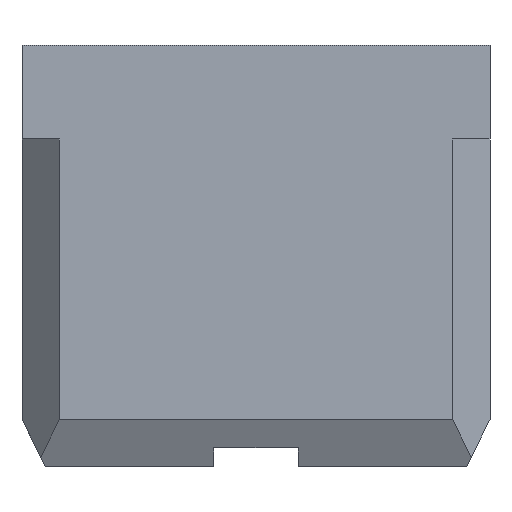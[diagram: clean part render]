
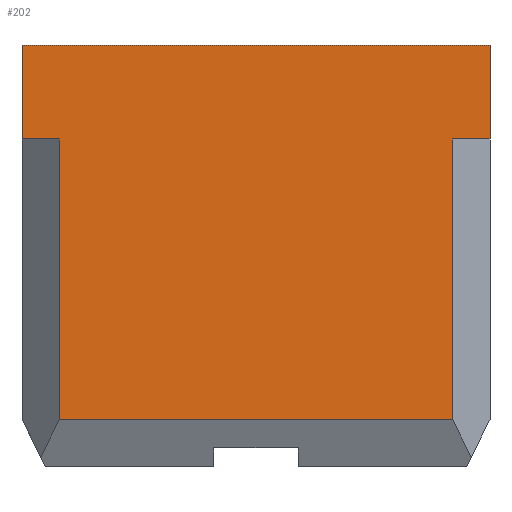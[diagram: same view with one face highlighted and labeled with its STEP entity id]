
A CAD part, left-side view. The second image highlights one B-rep face of the part: STEP entity #202.
In plain terms, the highlighted planar face has unit normal (-1, 0, 0).
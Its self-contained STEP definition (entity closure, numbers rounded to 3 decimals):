
#21 = ORIENTED_EDGE ( 'NONE', *, *, #1562, .T. ) ;
#32 = PLANE ( 'NONE',  #2537 ) ;
#176 = VECTOR ( 'NONE', #2682, 1000. ) ;
#189 = CARTESIAN_POINT ( 'NONE',  ( -1.25, 2.5, 4.65 ) ) ;
#202 = ADVANCED_FACE ( 'NONE', ( #1349 ), #32, .F. ) ;
#203 = DIRECTION ( 'NONE',  ( 0., 0., -1. ) ) ;
#238 = EDGE_CURVE ( 'NONE', #2242, #568, #1609, .T. ) ;
#267 = EDGE_CURVE ( 'NONE', #2457, #568, #1779, .T. ) ;
#292 = VERTEX_POINT ( 'NONE', #1637 ) ;
#375 = DIRECTION ( 'NONE',  ( 0., 1., 0. ) ) ;
#392 = DIRECTION ( 'NONE',  ( 0., 1., 0. ) ) ;
#423 = DIRECTION ( 'NONE',  ( 0., 0., 1. ) ) ;
#454 = ORIENTED_EDGE ( 'NONE', *, *, #267, .F. ) ;
#484 = EDGE_CURVE ( 'NONE', #2644, #1144, #2820, .T. ) ;
#568 = VERTEX_POINT ( 'NONE', #1100 ) ;
#591 = VERTEX_POINT ( 'NONE', #2262 ) ;
#670 = CARTESIAN_POINT ( 'NONE',  ( -1.25, 2.1, 3.5 ) ) ;
#672 = VERTEX_POINT ( 'NONE', #952 ) ;
#676 = EDGE_LOOP ( 'NONE', ( #783, #1292, #1320, #454, #1521, #21, #1157, #1735 ) ) ;
#750 = CARTESIAN_POINT ( 'NONE',  ( -1.25, -2.5, 0.5 ) ) ;
#783 = ORIENTED_EDGE ( 'NONE', *, *, #2606, .T. ) ;
#838 = LINE ( 'NONE', #1084, #2126 ) ;
#850 = VECTOR ( 'NONE', #2792, 1000. ) ;
#862 = EDGE_CURVE ( 'NONE', #591, #2457, #1515, .T. ) ;
#903 = VECTOR ( 'NONE', #423, 1000. ) ;
#916 = DIRECTION ( 'NONE',  ( 0., 1., 0. ) ) ;
#940 = VECTOR ( 'NONE', #1822, 1000. ) ;
#952 = CARTESIAN_POINT ( 'NONE',  ( -1.25, 2.5, 4.5 ) ) ;
#1039 = EDGE_CURVE ( 'NONE', #1144, #672, #1973, .T. ) ;
#1048 = CARTESIAN_POINT ( 'NONE',  ( -1.25, -2.5, 3.5 ) ) ;
#1084 = CARTESIAN_POINT ( 'NONE',  ( -1.25, 2.1, -0.53 ) ) ;
#1100 = CARTESIAN_POINT ( 'NONE',  ( -1.25, -2.1, 3.5 ) ) ;
#1135 = DIRECTION ( 'NONE',  ( 1., 0., 0. ) ) ;
#1144 = VERTEX_POINT ( 'NONE', #2257 ) ;
#1157 = ORIENTED_EDGE ( 'NONE', *, *, #1039, .F. ) ;
#1256 = EDGE_CURVE ( 'NONE', #292, #2242, #2297, .T. ) ;
#1292 = ORIENTED_EDGE ( 'NONE', *, *, #1256, .T. ) ;
#1320 = ORIENTED_EDGE ( 'NONE', *, *, #238, .T. ) ;
#1349 = FACE_OUTER_BOUND ( 'NONE', #676, .T. ) ;
#1514 = LINE ( 'NONE', #2225, #1967 ) ;
#1515 = LINE ( 'NONE', #2351, #850 ) ;
#1521 = ORIENTED_EDGE ( 'NONE', *, *, #862, .F. ) ;
#1562 = EDGE_CURVE ( 'NONE', #591, #672, #1514, .T. ) ;
#1591 = CARTESIAN_POINT ( 'NONE',  ( -1.25, -2.1, -0.53 ) ) ;
#1609 = LINE ( 'NONE', #1591, #176 ) ;
#1637 = CARTESIAN_POINT ( 'NONE',  ( -1.25, 2.1, 0.5 ) ) ;
#1735 = ORIENTED_EDGE ( 'NONE', *, *, #484, .F. ) ;
#1779 = LINE ( 'NONE', #2669, #2181 ) ;
#1822 = DIRECTION ( 'NONE',  ( 0., -1., 0. ) ) ;
#1967 = VECTOR ( 'NONE', #392, 1000. ) ;
#1973 = LINE ( 'NONE', #189, #903 ) ;
#2126 = VECTOR ( 'NONE', #203, 1000. ) ;
#2181 = VECTOR ( 'NONE', #2455, 1000. ) ;
#2225 = CARTESIAN_POINT ( 'NONE',  ( -1.25, 0., 4.5 ) ) ;
#2236 = CARTESIAN_POINT ( 'NONE',  ( -1.25, -2.1, 0.5 ) ) ;
#2241 = CARTESIAN_POINT ( 'NONE',  ( -1.25, -2.5, -0.88 ) ) ;
#2242 = VERTEX_POINT ( 'NONE', #2236 ) ;
#2257 = CARTESIAN_POINT ( 'NONE',  ( -1.25, 2.5, 3.5 ) ) ;
#2262 = CARTESIAN_POINT ( 'NONE',  ( -1.25, -2.5, 4.5 ) ) ;
#2297 = LINE ( 'NONE', #750, #940 ) ;
#2351 = CARTESIAN_POINT ( 'NONE',  ( -1.25, -2.5, 5.65 ) ) ;
#2455 = DIRECTION ( 'NONE',  ( 0., 1., 0. ) ) ;
#2457 = VERTEX_POINT ( 'NONE', #1048 ) ;
#2537 = AXIS2_PLACEMENT_3D ( 'NONE', #2241, #1135, #916 ) ;
#2586 = CARTESIAN_POINT ( 'NONE',  ( -1.25, 2.1, 3.5 ) ) ;
#2605 = VECTOR ( 'NONE', #375, 1000. ) ;
#2606 = EDGE_CURVE ( 'NONE', #2644, #292, #838, .T. ) ;
#2644 = VERTEX_POINT ( 'NONE', #670 ) ;
#2669 = CARTESIAN_POINT ( 'NONE',  ( -1.25, -2.5, 3.5 ) ) ;
#2682 = DIRECTION ( 'NONE',  ( 0., 0., 1. ) ) ;
#2792 = DIRECTION ( 'NONE',  ( 0., 0., -1. ) ) ;
#2820 = LINE ( 'NONE', #2586, #2605 ) ;
